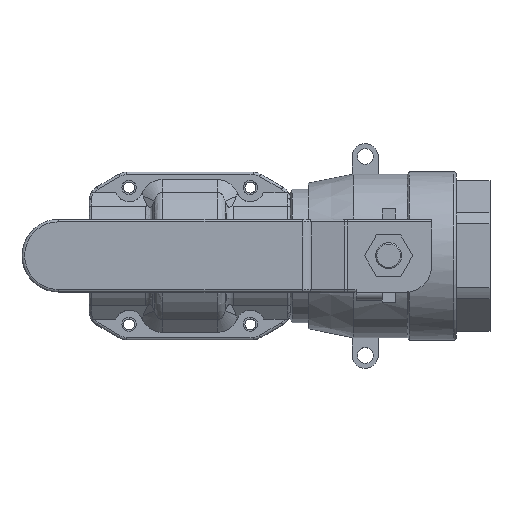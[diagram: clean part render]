
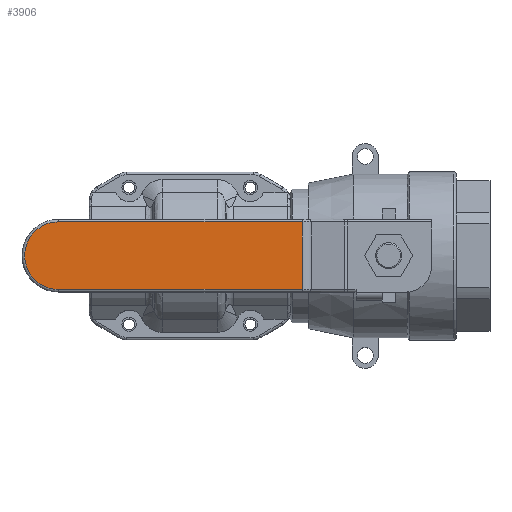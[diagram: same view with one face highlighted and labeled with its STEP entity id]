
A CAD part, top view. The second image highlights one B-rep face of the part: STEP entity #3906.
In plain terms, the highlighted planar face has unit normal (0, 0, 1).
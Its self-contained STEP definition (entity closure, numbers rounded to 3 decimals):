
#1065=DIRECTION('',(1.,0.,0.));
#1066=VECTOR('',#1065,94.546);
#1067=CARTESIAN_POINT('',(-52.388,13.097,70.522));
#1068=LINE('',#1067,#1066);
#1072=DIRECTION('',(0.,-1.,0.));
#1073=VECTOR('',#1072,26.194);
#1074=CARTESIAN_POINT('',(42.158,13.097,70.522));
#1075=LINE('',#1074,#1073);
#1079=DIRECTION('',(-1.,0.,0.));
#1080=VECTOR('',#1079,94.546);
#1081=CARTESIAN_POINT('',(42.158,-13.097,70.522));
#1082=LINE('',#1081,#1080);
#1086=CARTESIAN_POINT('',(-52.388,0.,70.522));
#1087=DIRECTION('',(0.,0.,-1.));
#1088=DIRECTION('',(0.,-1.,0.));
#1089=AXIS2_PLACEMENT_3D('',#1086,#1087,#1088);
#2969=CARTESIAN_POINT('',(42.158,13.097,70.522));
#2970=VERTEX_POINT('',#2969);
#2973=CARTESIAN_POINT('',(-52.388,13.097,70.522));
#2974=VERTEX_POINT('',#2973);
#2977=CARTESIAN_POINT('',(-52.388,-13.097,70.522));
#2978=VERTEX_POINT('',#2977);
#2981=CARTESIAN_POINT('',(42.158,-13.097,70.522));
#2982=VERTEX_POINT('',#2981);
#3894=CARTESIAN_POINT('',(-66.493,-14.104,70.522));
#3895=DIRECTION('',(0.,0.,1.));
#3896=DIRECTION('',(1.,0.,0.));
#3897=AXIS2_PLACEMENT_3D('',#3894,#3895,#3896);
#3898=PLANE('',#3897);
#3899=ORIENTED_EDGE('',*,*,#3807,.T.);
#3901=ORIENTED_EDGE('',*,*,#3900,.T.);
#3902=ORIENTED_EDGE('',*,*,#3888,.T.);
#3903=ORIENTED_EDGE('',*,*,#3792,.T.);
#3904=EDGE_LOOP('',(#3899,#3901,#3902,#3903));
#3905=FACE_OUTER_BOUND('',#3904,.F.);
#1090=CIRCLE('',#1089,13.097);
#3792=EDGE_CURVE('',#2978,#2974,#1090,.T.);
#3807=EDGE_CURVE('',#2974,#2970,#1068,.T.);
#3888=EDGE_CURVE('',#2982,#2978,#1082,.T.);
#3900=EDGE_CURVE('',#2970,#2982,#1075,.T.);
#3906=ADVANCED_FACE('',(#3905),#3898,.T.);
